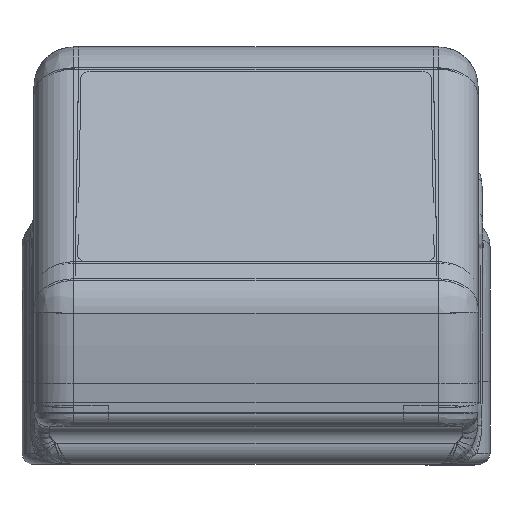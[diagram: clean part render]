
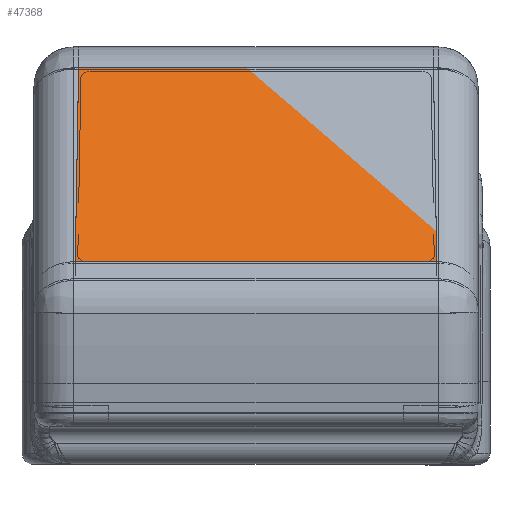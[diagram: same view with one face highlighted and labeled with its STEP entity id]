
A CAD part, front view. The second image highlights one B-rep face of the part: STEP entity #47368.
In plain terms, the highlighted planar face has unit normal (0, -0.707, 0.707).
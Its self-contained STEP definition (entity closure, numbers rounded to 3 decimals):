
#3966=PLANE('',#52443);
#6939=LINE('',#121837,#9980);
#6995=LINE('',#123396,#10036);
#7003=LINE('',#123625,#10044);
#7004=LINE('',#123627,#10045);
#9980=VECTOR('',#65153,10.);
#10036=VECTOR('',#65411,10.);
#10044=VECTOR('',#65455,10.);
#10045=VECTOR('',#65458,10.);
#13869=FACE_OUTER_BOUND('',#16746,.T.);
#16746=EDGE_LOOP('',(#44355,#44356,#44357,#44358));
#22925=VERTEX_POINT('',#121831);
#22926=VERTEX_POINT('',#121835);
#23021=VERTEX_POINT('',#123390);
#23022=VERTEX_POINT('',#123394);
#29962=EDGE_CURVE('',#22925,#22926,#6939,.T.);
#30123=EDGE_CURVE('',#23021,#23022,#6995,.T.);
#30143=EDGE_CURVE('',#23022,#22926,#7003,.T.);
#30144=EDGE_CURVE('',#23021,#22925,#7004,.T.);
#44355=ORIENTED_EDGE('',*,*,#30123,.F.);
#44356=ORIENTED_EDGE('',*,*,#30144,.T.);
#44357=ORIENTED_EDGE('',*,*,#29962,.T.);
#44358=ORIENTED_EDGE('',*,*,#30143,.F.);
#47368=ADVANCED_FACE('',(#13869),#3966,.T.);
#52443=AXIS2_PLACEMENT_3D('',#123626,#65456,#65457);
#65153=DIRECTION('',(-0.012,-0.707,-0.707));
#65411=DIRECTION('',(0.012,-0.707,-0.707));
#65455=DIRECTION('',(-1.,0.,0.));
#65456=DIRECTION('center_axis',(0.,-0.707,0.707));
#65457=DIRECTION('ref_axis',(0.,-0.707,-0.707));
#65458=DIRECTION('',(-1.,0.,0.));
#121831=CARTESIAN_POINT('',(-14.343,15.716,0.066));
#121835=CARTESIAN_POINT('',(-14.617,0.036,-15.614));
#121837=CARTESIAN_POINT('',(-14.404,12.208,-3.442));
#123390=CARTESIAN_POINT('',(14.343,15.716,0.066));
#123394=CARTESIAN_POINT('',(14.617,0.036,-15.614));
#123396=CARTESIAN_POINT('',(14.404,12.208,-3.442));
#123625=CARTESIAN_POINT('',(0.,0.036,-15.614));
#123626=CARTESIAN_POINT('Origin',(0.,15.716,0.066));
#123627=CARTESIAN_POINT('',(0.,15.716,0.066));
